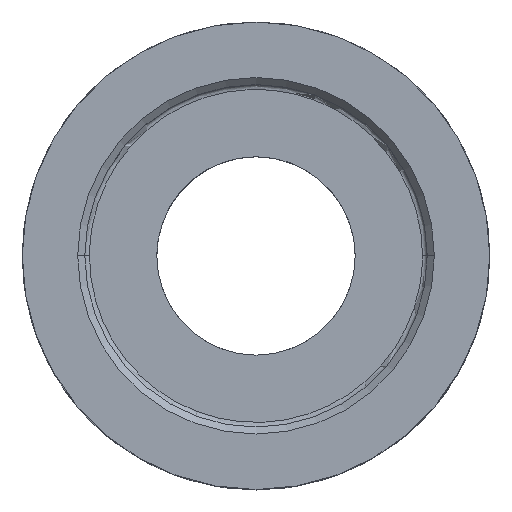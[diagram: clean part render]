
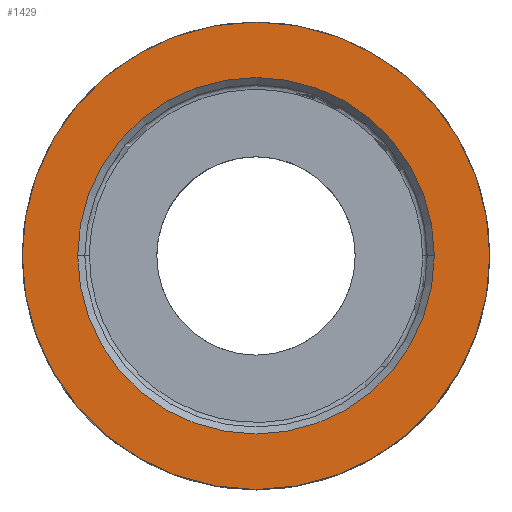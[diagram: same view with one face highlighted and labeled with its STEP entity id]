
A CAD part, top view. The second image highlights one B-rep face of the part: STEP entity #1429.
In plain terms, the highlighted planar face has unit normal (0, 0, 1).
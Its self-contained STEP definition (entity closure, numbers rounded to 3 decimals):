
#48=AXIS2_PLACEMENT_3D('Circle Axis2P3D',#46,#47,$) ;
#79=AXIS2_PLACEMENT_3D('Circle Axis2P3D',#77,#78,$) ;
#1297=AXIS2_PLACEMENT_3D('Circle Axis2P3D',#1295,#1296,$) ;
#1377=AXIS2_PLACEMENT_3D('Circle Axis2P3D',#1375,#1376,$) ;
#1419=AXIS2_PLACEMENT_3D('Plane Axis2P3D',#1416,#1417,#1418) ;
#41=CARTESIAN_POINT('Vertex',(-9.9,0.,5.4)) ;
#46=CARTESIAN_POINT('Axis2P3D Location',(0.,0.,5.4)) ;
#50=CARTESIAN_POINT('Vertex',(9.9,0.,5.4)) ;
#77=CARTESIAN_POINT('Axis2P3D Location',(0.,0.,5.4)) ;
#1292=CARTESIAN_POINT('Vertex',(-7.55,0.,5.4)) ;
#1295=CARTESIAN_POINT('Axis2P3D Location',(0.,0.,5.4)) ;
#1299=CARTESIAN_POINT('Vertex',(7.55,0.,5.4)) ;
#1375=CARTESIAN_POINT('Axis2P3D Location',(0.,0.,5.4)) ;
#1416=CARTESIAN_POINT('Axis2P3D Location',(0.,0.,5.4)) ;
#47=DIRECTION('Axis2P3D Direction',(-0.,0.,-1.)) ;
#78=DIRECTION('Axis2P3D Direction',(0.,0.,-1.)) ;
#1296=DIRECTION('Axis2P3D Direction',(0.,0.,-1.)) ;
#1376=DIRECTION('Axis2P3D Direction',(0.,0.,-1.)) ;
#1417=DIRECTION('Axis2P3D Direction',(0.,0.,-1.)) ;
#1418=DIRECTION('Axis2P3D XDirection',(1.,0.,0.)) ;
#1422=ORIENTED_EDGE('',*,*,#81,.F.) ;
#1423=ORIENTED_EDGE('',*,*,#52,.T.) ;
#1426=ORIENTED_EDGE('',*,*,#1379,.F.) ;
#1427=ORIENTED_EDGE('',*,*,#1301,.F.) ;
#1428=FACE_BOUND('',#1425,.T.) ;
#1429=ADVANCED_FACE('\X2\96F64EF651E04F554F53\X0\',(#1424,#1428),#1420,.F.) ;
#49=CIRCLE('generated circle',#48,9.9) ;
#80=CIRCLE('generated circle',#79,9.9) ;
#1298=CIRCLE('generated circle',#1297,7.55) ;
#1378=CIRCLE('generated circle',#1377,7.55) ;
#52=EDGE_CURVE('',#51,#42,#49,.F.) ;
#81=EDGE_CURVE('',#51,#42,#80,.T.) ;
#1301=EDGE_CURVE('',#1293,#1300,#1298,.F.) ;
#1379=EDGE_CURVE('',#1300,#1293,#1378,.F.) ;
#1421=EDGE_LOOP('',(#1422,#1423)) ;
#1425=EDGE_LOOP('',(#1426,#1427)) ;
#1424=FACE_OUTER_BOUND('',#1421,.T.) ;
#1420=PLANE('Plane',#1419) ;
#42=VERTEX_POINT('',#41) ;
#51=VERTEX_POINT('',#50) ;
#1293=VERTEX_POINT('',#1292) ;
#1300=VERTEX_POINT('',#1299) ;
